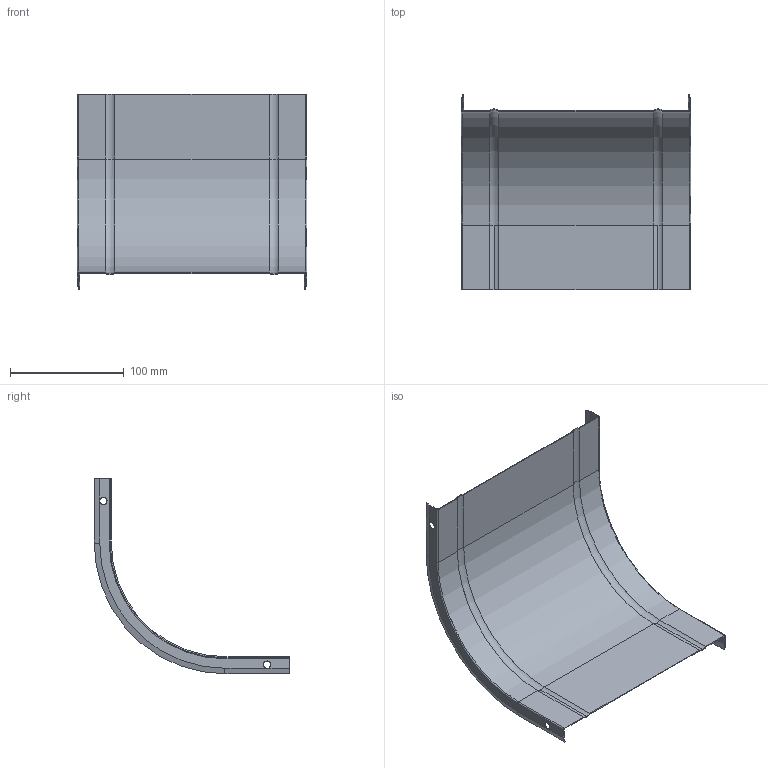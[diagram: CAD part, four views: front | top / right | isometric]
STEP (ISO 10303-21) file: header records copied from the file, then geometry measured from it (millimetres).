
FILE_DESCRIPTION (( 'STEP AP203' ), '1' );
FILE_NAME ('TCCERC 200.STEP', '2020-02-12T11:35:37', ( '' ), ( '' ), 'SwSTEP 2.0', 'SolidWorks 2019', '' );
FILE_SCHEMA (( 'CONFIG_CONTROL_DESIGN' ));
Length unit declared in the file: millimetre
Products named in the file (1): TCCERC 200
Bounding box: 202 x 172 x 172 mm (x, y, z)
Volume: 50460 mm3; surface area: 126787.1 mm2
Topology: 1 solids, 1 shells, 78 faces, 220 edges, 136 vertices
Faces by surface type: cylinder 36, plane 30, torus 8, cone 4
Entity records: 2605 total; most frequent: CARTESIAN_POINT 471, DIRECTION 450, ORIENTED_EDGE 440, EDGE_CURVE 220, AXIS2_PLACEMENT_3D 163, VERTEX_POINT 136, LINE 124, VECTOR 124
